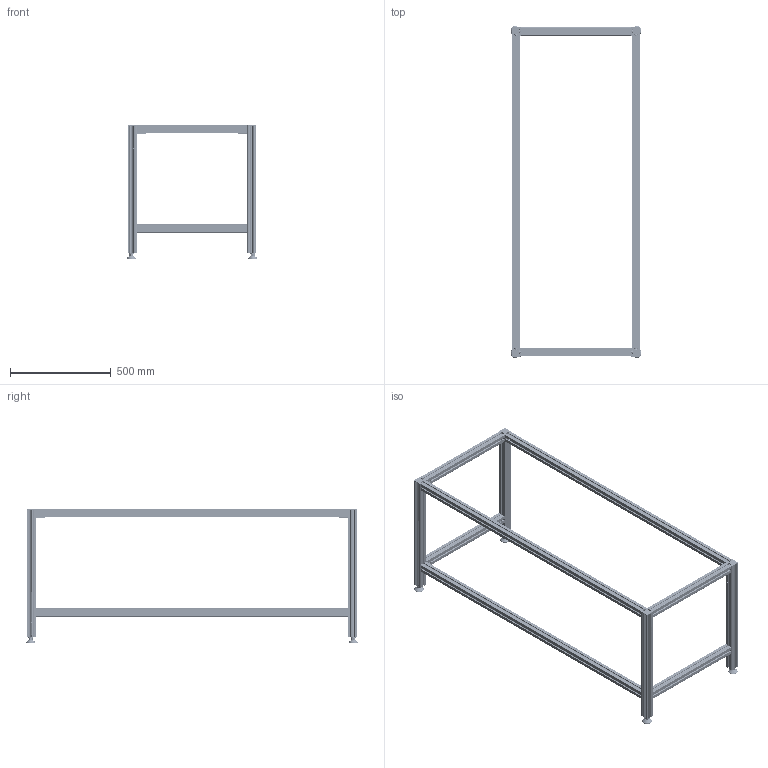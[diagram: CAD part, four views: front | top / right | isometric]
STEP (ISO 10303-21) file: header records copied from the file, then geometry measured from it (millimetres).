
FILE_DESCRIPTION(/* description */ ('Unknown'),/* implementation_level */ '2;1');
FILE_NAME(/* name */ '108.00443_eingefahren',/* time_stamp */ '2019-08-07T14:17:22+02:00',/* author */ ('Unknown'),/* organization */ ('Unknown'),/* preprocessor_version */ 'ST-DEVELOPER v16.7',/* originating_system */ 'DEX',/* authorisation */ $);
FILE_SCHEMA (('AUTOMOTIVE_DESIGN {1 0 10303 214 3 1 1}'));
Length unit declared in the file: millimetre
Products named in the file (41): 108.00443; 115.00104; 119.00194; 142.00210; 115.00100; 119.00190; 306.00454_oa_0; 142.00014; 119.00224; 122.00005; 142.00020; 113.00002_70mm; 124.00125; 128.00040; 106.00424_oa_1; 109.00404_oa_2; 121.50004; 142.00002; 142.00021; 125.00021; 115.00008_oa_3; 125.00065; 120.00029; 122.00012; 123.00104; 125.00051; 306.00454_oa_4; 106.00424_oa_5; 109.00404_oa_6; 115.00008_oa_7; 306.00454_oa_8; 106.00424_oa_9; 109.00404_oa_10; 115.00008_oa_11; 306.00454_oa_12; 106.00424_oa_13; 109.00404_oa_14; 115.00008_oa_15; 113.00006; 113.00052_ohne Mutter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
Assembly tree (115 placements, depth 5):
  108.00443
    115.00104  x3
      119.00194
      142.00210
    115.00100  x4
      119.00190
      142.00210
    306.00454_oa_0
      142.00014  x2
      119.00224
      122.00005
      142.00020  x4
      113.00002_70mm
      124.00125
      128.00040
      106.00424_oa_1
        109.00404_oa_2
          121.50004
          142.00002
          142.00021
          125.00021
          115.00008_oa_3
          125.00065
          120.00029
          122.00012
        123.00104
        125.00051
    306.00454_oa_4
      142.00014  x2
      119.00224
      122.00005
      142.00020  x4
      113.00002_70mm
      124.00125
      128.00040
      106.00424_oa_5
        109.00404_oa_6
          121.50004
          142.00002
          142.00021
          125.00021
          115.00008_oa_7
          125.00065
          120.00029
          122.00012
        123.00104
        125.00051
    306.00454_oa_8
      142.00014  x2
      119.00224
      122.00005
      142.00020  x4
      113.00002_70mm
      124.00125
      128.00040
      106.00424_oa_9
        109.00404_oa_10
          121.50004
          142.00002
          142.00021
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Bounding box: 650.82 x 1650.82 x 665 mm (x, y, z)
Volume: 7955103.8 mm3; surface area: 5195292.5 mm2
Topology: 123 solids, 123 shells, 6373 faces, 17590 edges, 11321 vertices
Faces by surface type: plane 2808, cylinder 2699, cone 350, torus 210, bspline 176, sphere 130
Full cylindrical faces by diameter (mm): 2.2 x4, 2.5 x48, 3 x16, 3.5 x4, 4 x40, 4.1 x4, 4.2 x4, 5 x28, 6 x4, 6.647 x4, 6.92 x4, 7.763 x8, 7.8 x14, 8 x20, 8.1 x12, 8.376 x12, 9.5 x4, 10 x8, 11.3 x14, 11.5 x18, 12 x22, 12.2 x14, 13.5 x14, 13.7 x21, 14.4 x4, 15 x4, 16 x4, 17.3 x4, 17.9 x8, 18 x36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
Entity records: 51516 total; most frequent: CARTESIAN_POINT 10846, DIRECTION 8156, ORIENTED_EDGE 8034, EDGE_CURVE 4017, AXIS2_PLACEMENT_3D 2963, VERTEX_POINT 2690, LINE 2230, VECTOR 2230
